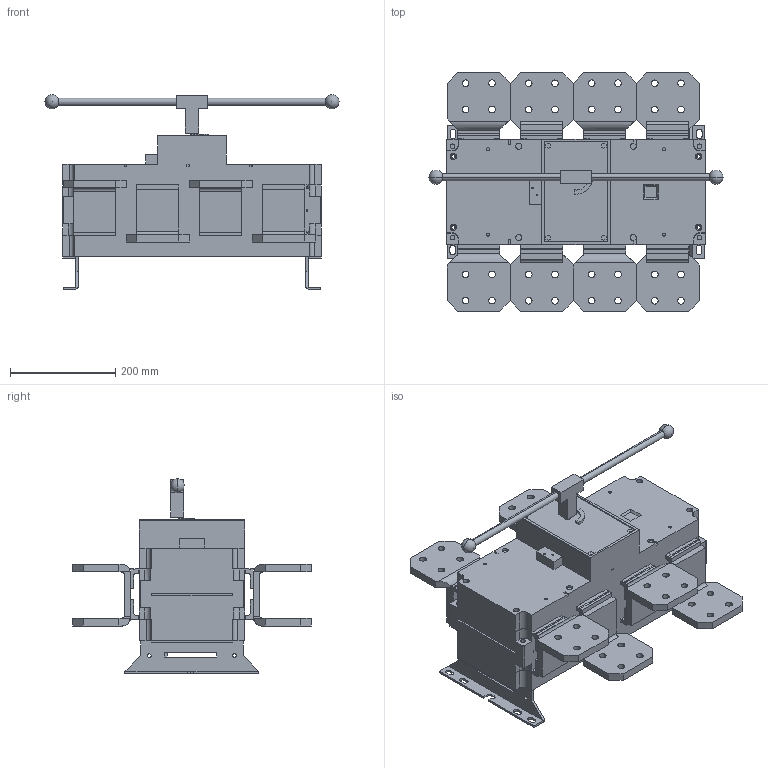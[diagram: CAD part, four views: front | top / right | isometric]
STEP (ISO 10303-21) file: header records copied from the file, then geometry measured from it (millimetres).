
FILE_DESCRIPTION (( 'STEP AP214' ), '1' );
FILE_NAME ('GL-3150-4P.STEP', '2026-01-26T13:02:08', ( '' ), ( '' ), 'SwSTEP 2.0', 'SolidWorks 2024', '' );
FILE_SCHEMA (( 'AUTOMOTIVE_DESIGN' ));
Length unit declared in the file: millimetre
Products named in the file (11): GL-3150-4P-2024_ASM_2_ASM_1_ASM_3.stp; GL-3150-4J-202506_ASM_1_ASM_1_ASM_3.stp; osn; GL-3150-4P; GL-3150-4P.stp; 1_5_3_2_1_3.stp; TIE_SHOU_BIN_1_1_2_3.stp; GL-2000-2500-4P-202411_ASM_5_AS_ASM_3.stp; GL-3150-4J-2025_ASM_1_ASM_3.stp; 20241118_8_2_1_3.stp; GL-2000-2500-4P-2024111411113_A_ASM_3.stp
Assembly tree (18 placements, depth 8):
  GL-3150-4P
    GL-3150-4P.stp
      GL-3150-4J-2025_ASM_1_ASM_3.stp
        GL-3150-4J-202506_ASM_1_ASM_1_ASM_3.stp
          GL-3150-4P-2024_ASM_2_ASM_1_ASM_3.stp
            GL-2000-2500-4P-202411_ASM_5_AS_ASM_3.stp
              GL-2000-2500-4P-2024111411113_A_ASM_3.stp
                1_5_3_2_1_3.stp
              20241118_8_2_1_3.stp  x8
        TIE_SHOU_BIN_1_1_2_3.stp
    osn  x2
Bounding box: 560.09 x 454 x 370.6 mm (x, y, z)
Volume: 20773361.5 mm3; surface area: 1229609.7 mm2
Topology: 12 solids, 12 shells, 1190 faces, 3184 edges, 2060 vertices
Faces by surface type: plane 892, cylinder 282, cone 12, sphere 4
Full cylindrical faces by diameter (mm): 7 x4, 10.5 x4
Entity records: 30448 total; most frequent: CARTESIAN_POINT 5839, ORIENTED_EDGE 5108, DIRECTION 4895, EDGE_CURVE 2554, VECTOR 2037, LINE 2037, VERTEX_POINT 1642, AXIS2_PLACEMENT_3D 1429
